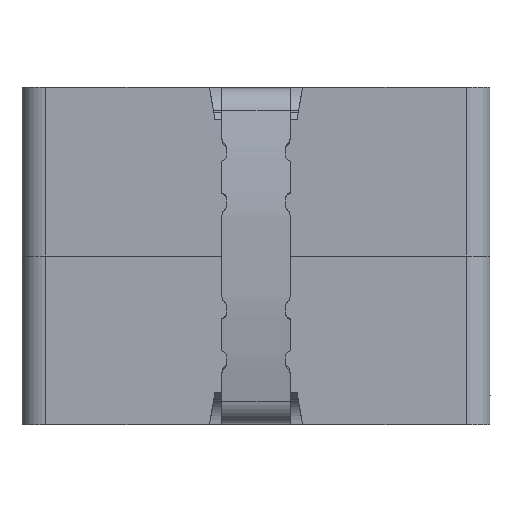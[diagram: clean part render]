
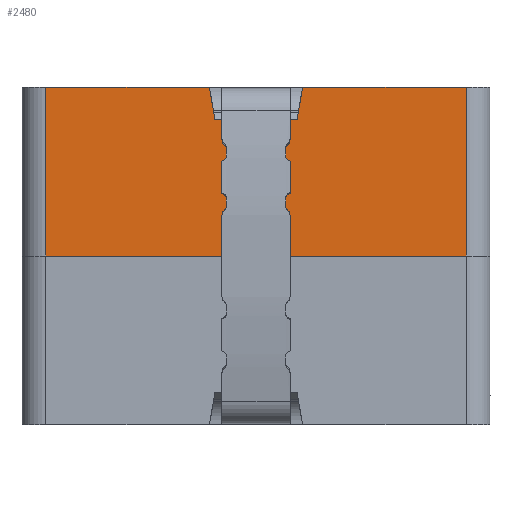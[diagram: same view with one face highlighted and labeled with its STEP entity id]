
A CAD part, left-side view. The second image highlights one B-rep face of the part: STEP entity #2480.
In plain terms, the highlighted planar face has unit normal (-1, 0, 0).
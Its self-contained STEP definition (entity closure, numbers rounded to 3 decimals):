
#62 = PLANE('',#63);
#63 = AXIS2_PLACEMENT_3D('',#64,#65,#66);
#64 = CARTESIAN_POINT('',(0.,0.,4.896));
#65 = DIRECTION('',(0.,0.,-1.));
#66 = DIRECTION('',(0.,-1.,0.));
#232 = VERTEX_POINT('',#233);
#233 = CARTESIAN_POINT('',(-10.9,-7.1,4.896));
#252 = CYLINDRICAL_SURFACE('',#253,0.8);
#253 = AXIS2_PLACEMENT_3D('',#254,#255,#256);
#254 = CARTESIAN_POINT('',(-10.1,-7.1,-0.806));
#255 = DIRECTION('',(0.,0.,1.));
#256 = DIRECTION('',(-1.,0.,0.));
#264 = EDGE_CURVE('',#232,#265,#267,.T.);
#265 = VERTEX_POINT('',#266);
#266 = CARTESIAN_POINT('',(-10.9,-1.576,4.896));
#267 = SURFACE_CURVE('',#268,(#272,#279),.PCURVE_S1.);
#268 = LINE('',#269,#270);
#269 = CARTESIAN_POINT('',(-10.9,-7.1,4.896));
#270 = VECTOR('',#271,1.);
#271 = DIRECTION('',(0.,1.,0.));
#272 = PCURVE('',#62,#273);
#273 = DEFINITIONAL_REPRESENTATION('',(#274),#278);
#274 = LINE('',#275,#276);
#275 = CARTESIAN_POINT('',(7.1,10.9));
#276 = VECTOR('',#277,1.);
#277 = DIRECTION('',(-1.,0.));
#278 = ( GEOMETRIC_REPRESENTATION_CONTEXT(2) 
PARAMETRIC_REPRESENTATION_CONTEXT() REPRESENTATION_CONTEXT('2D SPACE',''
  ) );
#279 = PCURVE('',#280,#285);
#280 = PLANE('',#281);
#281 = AXIS2_PLACEMENT_3D('',#282,#283,#284);
#282 = CARTESIAN_POINT('',(-10.9,-7.9,4.896));
#283 = DIRECTION('',(-1.,0.,0.));
#284 = DIRECTION('',(0.,1.,0.));
#285 = DEFINITIONAL_REPRESENTATION('',(#286),#290);
#286 = LINE('',#287,#288);
#287 = CARTESIAN_POINT('',(0.8,0.));
#288 = VECTOR('',#289,1.);
#289 = DIRECTION('',(1.,0.));
#290 = ( GEOMETRIC_REPRESENTATION_CONTEXT(2) 
PARAMETRIC_REPRESENTATION_CONTEXT() REPRESENTATION_CONTEXT('2D SPACE',''
  ) );
#308 = PLANE('',#309);
#309 = AXIS2_PLACEMENT_3D('',#310,#311,#312);
#310 = CARTESIAN_POINT('',(-10.912,-1.4,3.896));
#311 = DIRECTION('',(0.,-0.985,-0.174)
  );
#312 = DIRECTION('',(-1.,0.,0.));
#349 = VERTEX_POINT('',#350);
#350 = CARTESIAN_POINT('',(-10.9,1.576,4.896));
#364 = PLANE('',#365);
#365 = AXIS2_PLACEMENT_3D('',#366,#367,#368);
#366 = CARTESIAN_POINT('',(-10.912,1.4,3.896));
#367 = DIRECTION('',(0.,-0.985,0.174)
  );
#368 = DIRECTION('',(-1.,0.,0.));
#376 = EDGE_CURVE('',#349,#377,#379,.T.);
#377 = VERTEX_POINT('',#378);
#378 = CARTESIAN_POINT('',(-10.9,7.1,4.896));
#379 = SURFACE_CURVE('',#380,(#384,#391),.PCURVE_S1.);
#380 = LINE('',#381,#382);
#381 = CARTESIAN_POINT('',(-10.9,1.576,4.896));
#382 = VECTOR('',#383,1.);
#383 = DIRECTION('',(0.,1.,0.));
#384 = PCURVE('',#62,#385);
#385 = DEFINITIONAL_REPRESENTATION('',(#386),#390);
#386 = LINE('',#387,#388);
#387 = CARTESIAN_POINT('',(-1.576,10.9));
#388 = VECTOR('',#389,1.);
#389 = DIRECTION('',(-1.,0.));
#390 = ( GEOMETRIC_REPRESENTATION_CONTEXT(2) 
PARAMETRIC_REPRESENTATION_CONTEXT() REPRESENTATION_CONTEXT('2D SPACE',''
  ) );
#391 = PCURVE('',#280,#392);
#392 = DEFINITIONAL_REPRESENTATION('',(#393),#397);
#393 = LINE('',#394,#395);
#394 = CARTESIAN_POINT('',(9.476,0.));
#395 = VECTOR('',#396,1.);
#396 = DIRECTION('',(1.,0.));
#397 = ( GEOMETRIC_REPRESENTATION_CONTEXT(2) 
PARAMETRIC_REPRESENTATION_CONTEXT() REPRESENTATION_CONTEXT('2D SPACE',''
  ) );
#420 = CYLINDRICAL_SURFACE('',#421,0.8);
#421 = AXIS2_PLACEMENT_3D('',#422,#423,#424);
#422 = CARTESIAN_POINT('',(-10.1,7.1,4.897));
#423 = DIRECTION('',(0.,0.,-1.));
#424 = DIRECTION('',(-1.,0.,0.));
#1845 = PLANE('',#1846);
#1846 = AXIS2_PLACEMENT_3D('',#1847,#1848,#1849);
#1847 = CARTESIAN_POINT('',(10.9,-7.9,-0.805));
#1848 = DIRECTION('',(0.,0.,-1.));
#1849 = DIRECTION('',(1.,0.,0.));
#2435 = EDGE_CURVE('',#2436,#232,#2438,.T.);
#2436 = VERTEX_POINT('',#2437);
#2437 = CARTESIAN_POINT('',(-10.9,-7.1,-0.805));
#2438 = SURFACE_CURVE('',#2439,(#2443,#2450),.PCURVE_S1.);
#2439 = LINE('',#2440,#2441);
#2440 = CARTESIAN_POINT('',(-10.9,-7.1,-0.805));
#2441 = VECTOR('',#2442,1.);
#2442 = DIRECTION('',(0.,0.,1.));
#2443 = PCURVE('',#252,#2444);
#2444 = DEFINITIONAL_REPRESENTATION('',(#2445),#2449);
#2445 = LINE('',#2446,#2447);
#2446 = CARTESIAN_POINT('',(0.,0.002));
#2447 = VECTOR('',#2448,1.);
#2448 = DIRECTION('',(0.,1.));
#2449 = ( GEOMETRIC_REPRESENTATION_CONTEXT(2) 
PARAMETRIC_REPRESENTATION_CONTEXT() REPRESENTATION_CONTEXT('2D SPACE',''
  ) );
#2450 = PCURVE('',#280,#2451);
#2451 = DEFINITIONAL_REPRESENTATION('',(#2452),#2456);
#2452 = LINE('',#2453,#2454);
#2453 = CARTESIAN_POINT('',(0.8,5.7));
#2454 = VECTOR('',#2455,1.);
#2455 = DIRECTION('',(0.,-1.));
#2456 = ( GEOMETRIC_REPRESENTATION_CONTEXT(2) 
PARAMETRIC_REPRESENTATION_CONTEXT() REPRESENTATION_CONTEXT('2D SPACE',''
  ) );
#2480 = ADVANCED_FACE('',(#2481),#280,.T.);
#2481 = FACE_BOUND('',#2482,.F.);
#2482 = EDGE_LOOP('',(#2483,#2506,#2534,#2555,#2556,#2557,#2580,#2601));
#2483 = ORIENTED_EDGE('',*,*,#2484,.T.);
#2484 = EDGE_CURVE('',#349,#2485,#2487,.T.);
#2485 = VERTEX_POINT('',#2486);
#2486 = CARTESIAN_POINT('',(-10.9,1.385,3.81));
#2487 = SURFACE_CURVE('',#2488,(#2492,#2499),.PCURVE_S1.);
#2488 = LINE('',#2489,#2490);
#2489 = CARTESIAN_POINT('',(-10.9,1.576,4.896));
#2490 = VECTOR('',#2491,1.);
#2491 = DIRECTION('',(0.,-0.174,-0.985
    ));
#2492 = PCURVE('',#280,#2493);
#2493 = DEFINITIONAL_REPRESENTATION('',(#2494),#2498);
#2494 = LINE('',#2495,#2496);
#2495 = CARTESIAN_POINT('',(9.476,0.));
#2496 = VECTOR('',#2497,1.);
#2497 = DIRECTION('',(-0.174,0.985));
#2498 = ( GEOMETRIC_REPRESENTATION_CONTEXT(2) 
PARAMETRIC_REPRESENTATION_CONTEXT() REPRESENTATION_CONTEXT('2D SPACE',''
  ) );
#2499 = PCURVE('',#364,#2500);
#2500 = DEFINITIONAL_REPRESENTATION('',(#2501),#2505);
#2501 = LINE('',#2502,#2503);
#2502 = CARTESIAN_POINT('',(-0.012,-1.015));
#2503 = VECTOR('',#2504,1.);
#2504 = DIRECTION('',(0.,1.));
#2505 = ( GEOMETRIC_REPRESENTATION_CONTEXT(2) 
PARAMETRIC_REPRESENTATION_CONTEXT() REPRESENTATION_CONTEXT('2D SPACE',''
  ) );
#2506 = ORIENTED_EDGE('',*,*,#2507,.T.);
#2507 = EDGE_CURVE('',#2485,#2508,#2510,.T.);
#2508 = VERTEX_POINT('',#2509);
#2509 = CARTESIAN_POINT('',(-10.9,-1.385,3.81));
#2510 = SURFACE_CURVE('',#2511,(#2515,#2522),.PCURVE_S1.);
#2511 = LINE('',#2512,#2513);
#2512 = CARTESIAN_POINT('',(-10.9,1.385,3.81));
#2513 = VECTOR('',#2514,1.);
#2514 = DIRECTION('',(0.,-1.,0.));
#2515 = PCURVE('',#280,#2516);
#2516 = DEFINITIONAL_REPRESENTATION('',(#2517),#2521);
#2517 = LINE('',#2518,#2519);
#2518 = CARTESIAN_POINT('',(9.285,1.086));
#2519 = VECTOR('',#2520,1.);
#2520 = DIRECTION('',(-1.,0.));
#2521 = ( GEOMETRIC_REPRESENTATION_CONTEXT(2) 
PARAMETRIC_REPRESENTATION_CONTEXT() REPRESENTATION_CONTEXT('2D SPACE',''
  ) );
#2522 = PCURVE('',#2523,#2528);
#2523 = PLANE('',#2524);
#2524 = AXIS2_PLACEMENT_3D('',#2525,#2526,#2527);
#2525 = CARTESIAN_POINT('',(-10.9,1.4,3.81));
#2526 = DIRECTION('',(0.,0.,-1.));
#2527 = DIRECTION('',(1.,0.,0.));
#2528 = DEFINITIONAL_REPRESENTATION('',(#2529),#2533);
#2529 = LINE('',#2530,#2531);
#2530 = CARTESIAN_POINT('',(0.,0.015));
#2531 = VECTOR('',#2532,1.);
#2532 = DIRECTION('',(0.,1.));
#2533 = ( GEOMETRIC_REPRESENTATION_CONTEXT(2) 
PARAMETRIC_REPRESENTATION_CONTEXT() REPRESENTATION_CONTEXT('2D SPACE',''
  ) );
#2534 = ORIENTED_EDGE('',*,*,#2535,.F.);
#2535 = EDGE_CURVE('',#265,#2508,#2536,.T.);
#2536 = SURFACE_CURVE('',#2537,(#2541,#2548),.PCURVE_S1.);
#2537 = LINE('',#2538,#2539);
#2538 = CARTESIAN_POINT('',(-10.9,-1.576,4.896));
#2539 = VECTOR('',#2540,1.);
#2540 = DIRECTION('',(0.,0.174,-0.985)
  );
#2541 = PCURVE('',#280,#2542);
#2542 = DEFINITIONAL_REPRESENTATION('',(#2543),#2547);
#2543 = LINE('',#2544,#2545);
#2544 = CARTESIAN_POINT('',(6.324,0.));
#2545 = VECTOR('',#2546,1.);
#2546 = DIRECTION('',(0.174,0.985));
#2547 = ( GEOMETRIC_REPRESENTATION_CONTEXT(2) 
PARAMETRIC_REPRESENTATION_CONTEXT() REPRESENTATION_CONTEXT('2D SPACE',''
  ) );
#2548 = PCURVE('',#308,#2549);
#2549 = DEFINITIONAL_REPRESENTATION('',(#2550),#2554);
#2550 = LINE('',#2551,#2552);
#2551 = CARTESIAN_POINT('',(-0.012,-1.015));
#2552 = VECTOR('',#2553,1.);
#2553 = DIRECTION('',(0.,1.));
#2554 = ( GEOMETRIC_REPRESENTATION_CONTEXT(2) 
PARAMETRIC_REPRESENTATION_CONTEXT() REPRESENTATION_CONTEXT('2D SPACE',''
  ) );
#2555 = ORIENTED_EDGE('',*,*,#264,.F.);
#2556 = ORIENTED_EDGE('',*,*,#2435,.F.);
#2557 = ORIENTED_EDGE('',*,*,#2558,.T.);
#2558 = EDGE_CURVE('',#2436,#2559,#2561,.T.);
#2559 = VERTEX_POINT('',#2560);
#2560 = CARTESIAN_POINT('',(-10.9,7.1,-0.805));
#2561 = SURFACE_CURVE('',#2562,(#2566,#2573),.PCURVE_S1.);
#2562 = LINE('',#2563,#2564);
#2563 = CARTESIAN_POINT('',(-10.9,-7.1,-0.805));
#2564 = VECTOR('',#2565,1.);
#2565 = DIRECTION('',(0.,1.,0.));
#2566 = PCURVE('',#280,#2567);
#2567 = DEFINITIONAL_REPRESENTATION('',(#2568),#2572);
#2568 = LINE('',#2569,#2570);
#2569 = CARTESIAN_POINT('',(0.8,5.7));
#2570 = VECTOR('',#2571,1.);
#2571 = DIRECTION('',(1.,0.));
#2572 = ( GEOMETRIC_REPRESENTATION_CONTEXT(2) 
PARAMETRIC_REPRESENTATION_CONTEXT() REPRESENTATION_CONTEXT('2D SPACE',''
  ) );
#2573 = PCURVE('',#1845,#2574);
#2574 = DEFINITIONAL_REPRESENTATION('',(#2575),#2579);
#2575 = LINE('',#2576,#2577);
#2576 = CARTESIAN_POINT('',(-21.8,-0.8));
#2577 = VECTOR('',#2578,1.);
#2578 = DIRECTION('',(0.,-1.));
#2579 = ( GEOMETRIC_REPRESENTATION_CONTEXT(2) 
PARAMETRIC_REPRESENTATION_CONTEXT() REPRESENTATION_CONTEXT('2D SPACE',''
  ) );
#2580 = ORIENTED_EDGE('',*,*,#2581,.F.);
#2581 = EDGE_CURVE('',#377,#2559,#2582,.T.);
#2582 = SURFACE_CURVE('',#2583,(#2587,#2594),.PCURVE_S1.);
#2583 = LINE('',#2584,#2585);
#2584 = CARTESIAN_POINT('',(-10.9,7.1,4.896));
#2585 = VECTOR('',#2586,1.);
#2586 = DIRECTION('',(0.,0.,-1.));
#2587 = PCURVE('',#280,#2588);
#2588 = DEFINITIONAL_REPRESENTATION('',(#2589),#2593);
#2589 = LINE('',#2590,#2591);
#2590 = CARTESIAN_POINT('',(15.,0.));
#2591 = VECTOR('',#2592,1.);
#2592 = DIRECTION('',(0.,1.));
#2593 = ( GEOMETRIC_REPRESENTATION_CONTEXT(2) 
PARAMETRIC_REPRESENTATION_CONTEXT() REPRESENTATION_CONTEXT('2D SPACE',''
  ) );
#2594 = PCURVE('',#420,#2595);
#2595 = DEFINITIONAL_REPRESENTATION('',(#2596),#2600);
#2596 = LINE('',#2597,#2598);
#2597 = CARTESIAN_POINT('',(0.,0.001));
#2598 = VECTOR('',#2599,1.);
#2599 = DIRECTION('',(0.,1.));
#2600 = ( GEOMETRIC_REPRESENTATION_CONTEXT(2) 
PARAMETRIC_REPRESENTATION_CONTEXT() REPRESENTATION_CONTEXT('2D SPACE',''
  ) );
#2601 = ORIENTED_EDGE('',*,*,#376,.F.);
